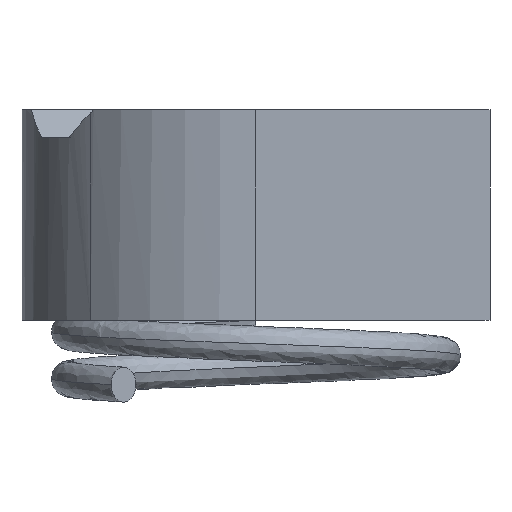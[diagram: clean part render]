
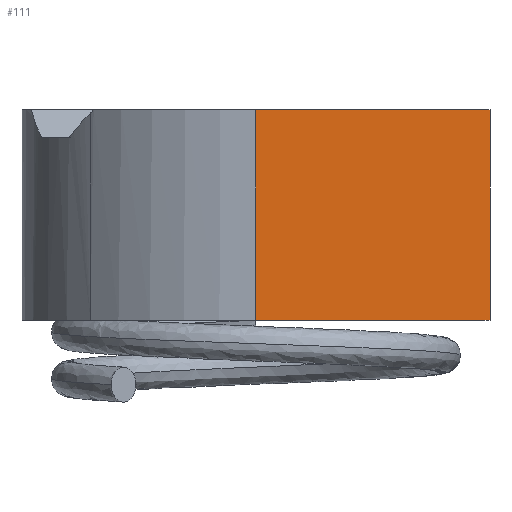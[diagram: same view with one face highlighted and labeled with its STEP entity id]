
A CAD part, left-side view. The second image highlights one B-rep face of the part: STEP entity #111.
In plain terms, the highlighted planar face has unit normal (-1, 0, 0).
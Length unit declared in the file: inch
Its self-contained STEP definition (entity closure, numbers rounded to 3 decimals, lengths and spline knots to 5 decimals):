
#111=ADVANCED_FACE('',(#219),#220,.T.);
#219=FACE_OUTER_BOUND('',#1521,.T.);
#220=PLANE('',#1522);
#1521=EDGE_LOOP('',(#1741,#1742,#1743,#1744));
#1522=AXIS2_PLACEMENT_3D('',#1745,#1746,#1747);
#1741=ORIENTED_EDGE('',*,*,#1852,.F.);
#1742=ORIENTED_EDGE('',*,*,#1872,.T.);
#1743=ORIENTED_EDGE('',*,*,#1800,.F.);
#1744=ORIENTED_EDGE('',*,*,#1869,.F.);
#1745=CARTESIAN_POINT('',(0.0,0.7874,0.27596));
#1746=DIRECTION('',(-1.0,0.0,0.0));
#1747=DIRECTION('',(0.0,0.0,-1.0));
#1800=EDGE_CURVE('',#1928,#1929,#1930,.T.);
#1852=EDGE_CURVE('',#2001,#2003,#2004,.T.);
#1869=EDGE_CURVE('',#2003,#1928,#2023,.T.);
#1872=EDGE_CURVE('',#2001,#1929,#2026,.T.);
#1928=VERTEX_POINT('',#2206);
#1929=VERTEX_POINT('',#2207);
#1930=LINE('',#2208,#2209);
#2001=VERTEX_POINT('',#2355);
#2003=VERTEX_POINT('',#2357);
#2004=LINE('',#2358,#2359);
#2023=LINE('',#2411,#2412);
#2026=LINE('',#2415,#2416);
#2206=CARTESIAN_POINT('',(0.0,0.,0.31496));
#2207=CARTESIAN_POINT('',(0.0,0.,-0.039));
#2208=CARTESIAN_POINT('',(0.0,0.,0.27596));
#2209=VECTOR('',#2456,0.3937);
#2355=CARTESIAN_POINT('',(0.0,0.3937,-0.039));
#2357=CARTESIAN_POINT('',(0.0,0.3937,0.31496));
#2358=CARTESIAN_POINT('',(0.0,0.3937,0.03777));
#2359=VECTOR('',#2504,1.0);
#2411=CARTESIAN_POINT('',(0.0,0.7874,0.31496));
#2412=VECTOR('',#2514,0.3937);
#2415=CARTESIAN_POINT('',(0.0,0.7874,-0.039));
#2416=VECTOR('',#2518,0.3937);
#2456=DIRECTION('',(0.0,0.0,-1.0));
#2504=DIRECTION('',(0.0,0.0,1.0));
#2514=DIRECTION('',(0.0,-1.0,0.0));
#2518=DIRECTION('',(0.0,-1.0,0.0));
